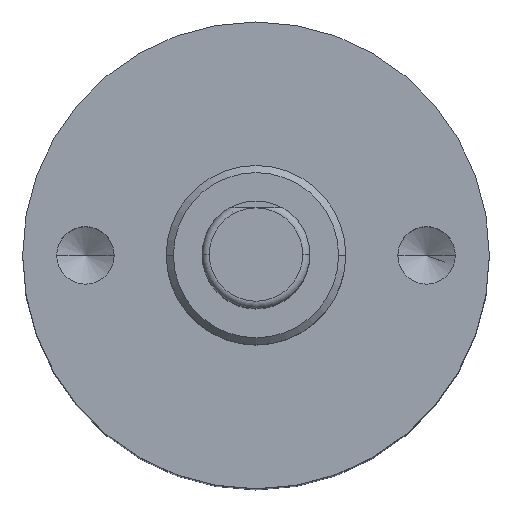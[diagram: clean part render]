
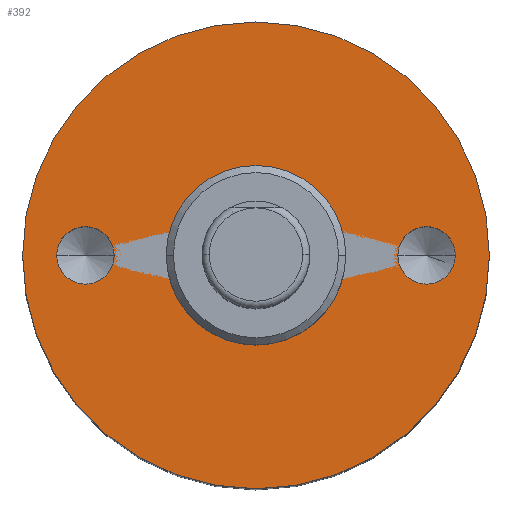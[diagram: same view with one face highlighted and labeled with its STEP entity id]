
A CAD part, top view. The second image highlights one B-rep face of the part: STEP entity #392.
In plain terms, the highlighted planar face has unit normal (0, 0, 1).
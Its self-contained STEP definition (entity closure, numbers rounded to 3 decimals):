
#26 = ORIENTED_EDGE ( 'NONE', *, *, #428, .F. ) ;
#69 = EDGE_LOOP ( 'NONE', ( #26, #808 ) ) ;
#75 = DIRECTION ( 'NONE',  ( 1., 0., 0. ) ) ;
#85 = VERTEX_POINT ( 'NONE', #1131 ) ;
#106 = CARTESIAN_POINT ( 'NONE',  ( 5.55, 0., -13.9 ) ) ;
#160 = DIRECTION ( 'NONE',  ( 0., 0., 1. ) ) ;
#167 = CARTESIAN_POINT ( 'NONE',  ( -3.95, 0., -13.9 ) ) ;
#174 = CARTESIAN_POINT ( 'NONE',  ( -5.55, 0., -13.9 ) ) ;
#255 = DIRECTION ( 'NONE',  ( 0., 0., 1. ) ) ;
#259 = ORIENTED_EDGE ( 'NONE', *, *, #1502, .T. ) ;
#273 = CIRCLE ( 'NONE', #481, 0.8 ) ;
#282 = DIRECTION ( 'NONE',  ( 1., 0., 0. ) ) ;
#290 = FACE_BOUND ( 'NONE', #672, .T. ) ;
#293 = ORIENTED_EDGE ( 'NONE', *, *, #799, .F. ) ;
#315 = FACE_BOUND ( 'NONE', #820, .T. ) ;
#322 = ORIENTED_EDGE ( 'NONE', *, *, #746, .F. ) ;
#352 = VERTEX_POINT ( 'NONE', #167 ) ;
#392 = ADVANCED_FACE ( 'NONE', ( #772, #290, #1465, #315 ), #669, .T. ) ;
#416 = CIRCLE ( 'NONE', #862, 0.8 ) ;
#425 = VERTEX_POINT ( 'NONE', #106 ) ;
#428 = EDGE_CURVE ( 'NONE', #352, #1342, #416, .T. ) ;
#477 = ORIENTED_EDGE ( 'NONE', *, *, #1202, .F. ) ;
#481 = AXIS2_PLACEMENT_3D ( 'NONE', #748, #1216, #509 ) ;
#482 = DIRECTION ( 'NONE',  ( 1., 0., 0. ) ) ;
#486 = CARTESIAN_POINT ( 'NONE',  ( -4.75, 0., -13.9 ) ) ;
#509 = DIRECTION ( 'NONE',  ( 1., 0., 0. ) ) ;
#534 = CARTESIAN_POINT ( 'NONE',  ( 4.75, 0., -13.9 ) ) ;
#573 = AXIS2_PLACEMENT_3D ( 'NONE', #1450, #160, #282 ) ;
#579 = VERTEX_POINT ( 'NONE', #984 ) ;
#594 = AXIS2_PLACEMENT_3D ( 'NONE', #688, #785, #917 ) ;
#602 = CIRCLE ( 'NONE', #1140, 2.5 ) ;
#603 = CARTESIAN_POINT ( 'NONE',  ( 0., 0., -13.9 ) ) ;
#619 = CIRCLE ( 'NONE', #594, 0.8 ) ;
#667 = CARTESIAN_POINT ( 'NONE',  ( 0., 0., -13.9 ) ) ;
#669 = PLANE ( 'NONE',  #686 ) ;
#672 = EDGE_LOOP ( 'NONE', ( #293, #322 ) ) ;
#686 = AXIS2_PLACEMENT_3D ( 'NONE', #764, #1235, #1120 ) ;
#688 = CARTESIAN_POINT ( 'NONE',  ( 4.75, 0., -13.9 ) ) ;
#696 = DIRECTION ( 'NONE',  ( 0., 0., 1. ) ) ;
#716 = DIRECTION ( 'NONE',  ( 1., 0., 0. ) ) ;
#720 = VERTEX_POINT ( 'NONE', #1018 ) ;
#738 = CIRCLE ( 'NONE', #1462, 6.5 ) ;
#746 = EDGE_CURVE ( 'NONE', #1510, #425, #619, .T. ) ;
#748 = CARTESIAN_POINT ( 'NONE',  ( -4.75, 0., -13.9 ) ) ;
#764 = CARTESIAN_POINT ( 'NONE',  ( 0., -2.5, -13.9 ) ) ;
#772 = FACE_BOUND ( 'NONE', #69, .T. ) ;
#783 = EDGE_CURVE ( 'NONE', #1011, #720, #738, .T. ) ;
#785 = DIRECTION ( 'NONE',  ( 0., 0., 1. ) ) ;
#791 = CARTESIAN_POINT ( 'NONE',  ( 3.95, 0., -13.9 ) ) ;
#799 = EDGE_CURVE ( 'NONE', #425, #1510, #1109, .T. ) ;
#808 = ORIENTED_EDGE ( 'NONE', *, *, #1219, .F. ) ;
#820 = EDGE_LOOP ( 'NONE', ( #477, #1167 ) ) ;
#828 = CARTESIAN_POINT ( 'NONE',  ( 6.5, 0., -13.9 ) ) ;
#855 = AXIS2_PLACEMENT_3D ( 'NONE', #667, #895, #1244 ) ;
#862 = AXIS2_PLACEMENT_3D ( 'NONE', #486, #1395, #716 ) ;
#895 = DIRECTION ( 'NONE',  ( 0., 0., 1. ) ) ;
#917 = DIRECTION ( 'NONE',  ( 1., 0., 0. ) ) ;
#984 = CARTESIAN_POINT ( 'NONE',  ( -2.5, 0., -13.9 ) ) ;
#987 = ORIENTED_EDGE ( 'NONE', *, *, #783, .T. ) ;
#1009 = DIRECTION ( 'NONE',  ( 1., 0., 0. ) ) ;
#1011 = VERTEX_POINT ( 'NONE', #828 ) ;
#1018 = CARTESIAN_POINT ( 'NONE',  ( -6.5, 0., -13.9 ) ) ;
#1078 = CIRCLE ( 'NONE', #855, 6.5 ) ;
#1109 = CIRCLE ( 'NONE', #1325, 0.8 ) ;
#1120 = DIRECTION ( 'NONE',  ( 1., 0., 0. ) ) ;
#1131 = CARTESIAN_POINT ( 'NONE',  ( 2.5, 0., -13.9 ) ) ;
#1140 = AXIS2_PLACEMENT_3D ( 'NONE', #603, #255, #482 ) ;
#1145 = EDGE_CURVE ( 'NONE', #579, #85, #602, .T. ) ;
#1167 = ORIENTED_EDGE ( 'NONE', *, *, #1145, .F. ) ;
#1175 = EDGE_LOOP ( 'NONE', ( #987, #259 ) ) ;
#1202 = EDGE_CURVE ( 'NONE', #85, #579, #1429, .T. ) ;
#1216 = DIRECTION ( 'NONE',  ( 0., 0., 1. ) ) ;
#1219 = EDGE_CURVE ( 'NONE', #1342, #352, #273, .T. ) ;
#1235 = DIRECTION ( 'NONE',  ( 0., 0., 1. ) ) ;
#1244 = DIRECTION ( 'NONE',  ( 1., 0., 0. ) ) ;
#1325 = AXIS2_PLACEMENT_3D ( 'NONE', #534, #1494, #1009 ) ;
#1342 = VERTEX_POINT ( 'NONE', #174 ) ;
#1395 = DIRECTION ( 'NONE',  ( 0., 0., 1. ) ) ;
#1429 = CIRCLE ( 'NONE', #573, 2.5 ) ;
#1450 = CARTESIAN_POINT ( 'NONE',  ( 0., 0., -13.9 ) ) ;
#1462 = AXIS2_PLACEMENT_3D ( 'NONE', #1485, #696, #75 ) ;
#1465 = FACE_OUTER_BOUND ( 'NONE', #1175, .T. ) ;
#1485 = CARTESIAN_POINT ( 'NONE',  ( 0., 0., -13.9 ) ) ;
#1494 = DIRECTION ( 'NONE',  ( 0., 0., 1. ) ) ;
#1502 = EDGE_CURVE ( 'NONE', #720, #1011, #1078, .T. ) ;
#1510 = VERTEX_POINT ( 'NONE', #791 ) ;
